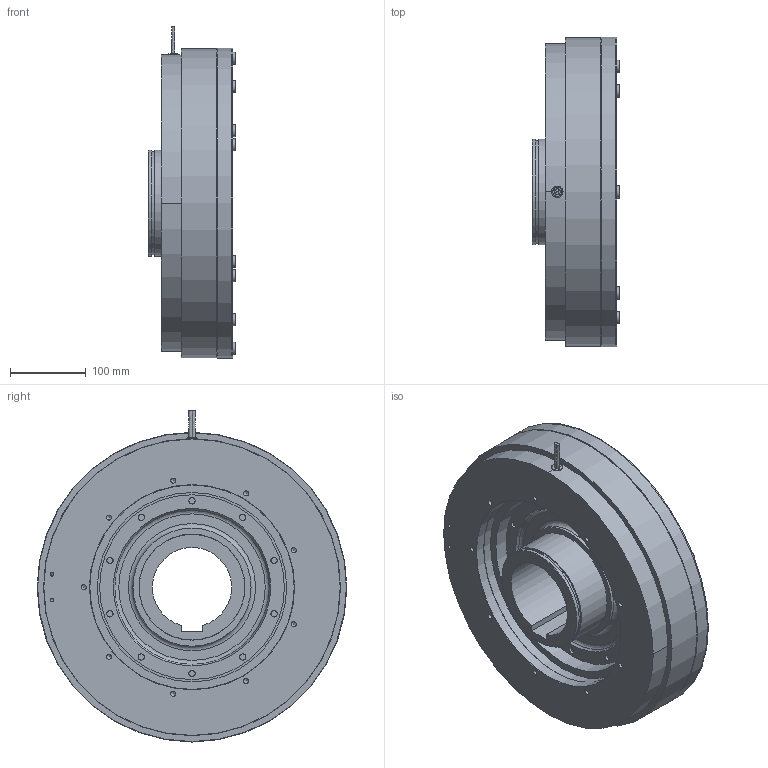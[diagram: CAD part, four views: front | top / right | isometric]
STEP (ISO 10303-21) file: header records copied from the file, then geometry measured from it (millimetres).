
FILE_DESCRIPTION(/* description */ (''),/* implementation_level */ '2;1');
FILE_NAME(/* name */ 'X:\INVENTOR\DISEGNI\08_Freni_Friz_Elettmag_Monodisco\08_26 EMSL_DF\EMSL_DF STEP\08_26_400_21 EMSL400_DF-BM@STEP.stp',/* time_stamp */ '2018-04-24T08:31:05+02:00',/* author */ ('stefano'),/* organization */ (''),/* preprocessor_version */ 'ST-DEVELOPER v17',/* originating_system */ 'Autodesk Inventor 2018',/* authorisation */ '');
FILE_SCHEMA (('AUTOMOTIVE_DESIGN { 1 0 10303 214 3 1 1 }'));
Length unit declared in the file: millimetre
Products named in the file (1): 08_26_400_21 EMSL400_DF-BM_Substitute_1
Bounding box: 116 x 409 x 438.52 mm (x, y, z)
Volume: 7990554.3 mm3; surface area: 1027934.5 mm2
Topology: 3 solids, 3 shells, 516 faces, 1487 edges, 1033 vertices
Faces by surface type: cylinder 292, plane 149, cone 59, torus 13, bspline 3
Full cylindrical faces by diameter (mm): 3 x12, 4.917 x2, 6.647 x9, 8.376 x10, 12.1 x6, 15 x1, 16 x22, 17.8 x12, 18 x12, 136 x1, 140 x2, 156 x1, 205 x1, 244 x1, 250 x2, 260 x1, 270 x2, 270.3 x1, 271.1 x1, 306 x1, 376 x1, 392.4 x1, 408 x1, 409 x2
Entity records: 18265 total; most frequent: CARTESIAN_POINT 3361, DIRECTION 3325, ORIENTED_EDGE 2936, EDGE_CURVE 1468, AXIS2_PLACEMENT_3D 1421, VERTEX_POINT 1033, CIRCLE 907, EDGE_LOOP 717
